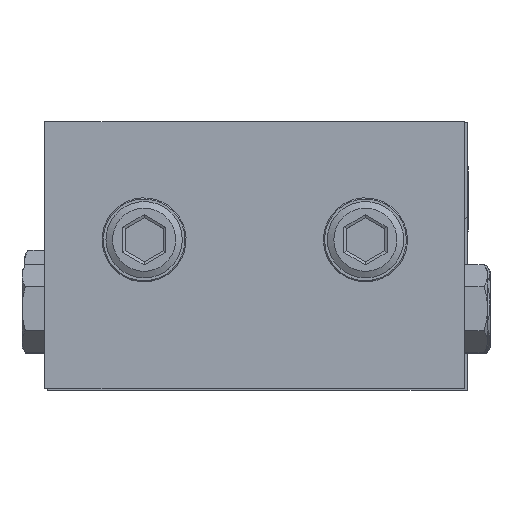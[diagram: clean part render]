
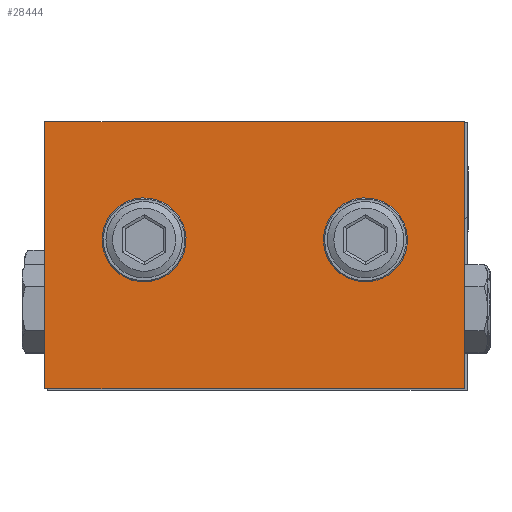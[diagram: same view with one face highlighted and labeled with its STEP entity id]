
A CAD part, top view. The second image highlights one B-rep face of the part: STEP entity #28444.
In plain terms, the highlighted planar face has unit normal (0, 0, 1) as drawn and (0, 0, -1) by its records, which use the part's own axes.
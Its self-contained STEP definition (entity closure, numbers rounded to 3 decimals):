
#702 = DIRECTION ( 'NONE',  ( 1., 0., 0. ) ) ;
#1299 = AXIS2_PLACEMENT_3D ( 'NONE', #17767, #15147, #18112 ) ;
#1611 = CARTESIAN_POINT ( 'NONE',  ( -14.5, -15.5, -4.85 ) ) ;
#1765 = ORIENTED_EDGE ( 'NONE', *, *, #12198, .F. ) ;
#3061 = EDGE_CURVE ( 'NONE', #7492, #35253, #33640, .T. ) ;
#3696 = CARTESIAN_POINT ( 'NONE',  ( 27.5, -35., -4.85 ) ) ;
#4014 = VERTEX_POINT ( 'NONE', #23903 ) ;
#6137 = CARTESIAN_POINT ( 'NONE',  ( 14.5, -15.5, -4.85 ) ) ;
#7492 = VERTEX_POINT ( 'NONE', #8389 ) ;
#8389 = CARTESIAN_POINT ( 'NONE',  ( -27.5, 0., -4.85 ) ) ;
#8602 = PLANE ( 'NONE',  #1299 ) ;
#9892 = EDGE_LOOP ( 'NONE', ( #28201 ) ) ;
#10952 = DIRECTION ( 'NONE',  ( 0., -1., 0. ) ) ;
#12019 = LINE ( 'NONE', #31913, #16407 ) ;
#12084 = VERTEX_POINT ( 'NONE', #25546 ) ;
#12198 = EDGE_CURVE ( 'NONE', #25673, #12084, #12019, .T. ) ;
#12345 = CIRCLE ( 'NONE', #34512, 3.1 ) ;
#12535 = CARTESIAN_POINT ( 'NONE',  ( 0., -35., -4.85 ) ) ;
#13392 = EDGE_CURVE ( 'NONE', #35253, #25673, #20785, .T. ) ;
#13773 = EDGE_LOOP ( 'NONE', ( #22968, #1765, #34900, #23840 ) ) ;
#15147 = DIRECTION ( 'NONE',  ( 0., 0., 1. ) ) ;
#16407 = VECTOR ( 'NONE', #27163, 1000. ) ;
#17207 = FACE_BOUND ( 'NONE', #36138, .T. ) ;
#17767 = CARTESIAN_POINT ( 'NONE',  ( 0., 0., -4.85 ) ) ;
#18112 = DIRECTION ( 'NONE',  ( 1., 0., 0. ) ) ;
#19061 = EDGE_CURVE ( 'NONE', #12084, #7492, #26622, .T. ) ;
#19479 = CARTESIAN_POINT ( 'NONE',  ( -27.5, -35., -4.85 ) ) ;
#19808 = DIRECTION ( 'NONE',  ( 0., 0., -1. ) ) ;
#20347 = DIRECTION ( 'NONE',  ( 0., 0., -1. ) ) ;
#20660 = VECTOR ( 'NONE', #702, 1000. ) ;
#20785 = LINE ( 'NONE', #12535, #20660 ) ;
#22825 = FACE_BOUND ( 'NONE', #9892, .T. ) ;
#22968 = ORIENTED_EDGE ( 'NONE', *, *, #19061, .F. ) ;
#23840 = ORIENTED_EDGE ( 'NONE', *, *, #3061, .F. ) ;
#23903 = CARTESIAN_POINT ( 'NONE',  ( 11.4, -15.5, -4.85 ) ) ;
#24322 = VECTOR ( 'NONE', #29096, 1000. ) ;
#25445 = DIRECTION ( 'NONE',  ( 1., 0., 0. ) ) ;
#25546 = CARTESIAN_POINT ( 'NONE',  ( 27.5, 0., -4.85 ) ) ;
#25673 = VERTEX_POINT ( 'NONE', #3696 ) ;
#26622 = LINE ( 'NONE', #29269, #24322 ) ;
#27163 = DIRECTION ( 'NONE',  ( 0., 1., 0. ) ) ;
#28032 = CARTESIAN_POINT ( 'NONE',  ( -27.5, 0., -4.85 ) ) ;
#28201 = ORIENTED_EDGE ( 'NONE', *, *, #31790, .F. ) ;
#28444 = ADVANCED_FACE ( 'NONE', ( #17207, #22825, #34287 ), #8602, .F. ) ;
#28708 = CIRCLE ( 'NONE', #31139, 3.1 ) ;
#29096 = DIRECTION ( 'NONE',  ( -1., 0., 0. ) ) ;
#29191 = CARTESIAN_POINT ( 'NONE',  ( -11.4, -15.5, -4.85 ) ) ;
#29269 = CARTESIAN_POINT ( 'NONE',  ( 0., 0., -4.85 ) ) ;
#31139 = AXIS2_PLACEMENT_3D ( 'NONE', #1611, #20347, #25445 ) ;
#31790 = EDGE_CURVE ( 'NONE', #4014, #4014, #12345, .T. ) ;
#31913 = CARTESIAN_POINT ( 'NONE',  ( 27.5, 0., -4.85 ) ) ;
#33640 = LINE ( 'NONE', #28032, #35194 ) ;
#34080 = DIRECTION ( 'NONE',  ( -1., 0., 0. ) ) ;
#34287 = FACE_OUTER_BOUND ( 'NONE', #13773, .T. ) ;
#34512 = AXIS2_PLACEMENT_3D ( 'NONE', #6137, #19808, #34080 ) ;
#34775 = ORIENTED_EDGE ( 'NONE', *, *, #35889, .F. ) ;
#34796 = VERTEX_POINT ( 'NONE', #29191 ) ;
#34900 = ORIENTED_EDGE ( 'NONE', *, *, #13392, .F. ) ;
#35194 = VECTOR ( 'NONE', #10952, 1000. ) ;
#35253 = VERTEX_POINT ( 'NONE', #19479 ) ;
#35889 = EDGE_CURVE ( 'NONE', #34796, #34796, #28708, .T. ) ;
#36138 = EDGE_LOOP ( 'NONE', ( #34775 ) ) ;
